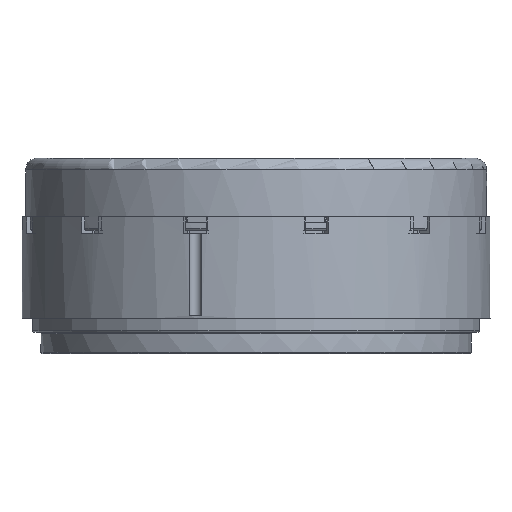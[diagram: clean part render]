
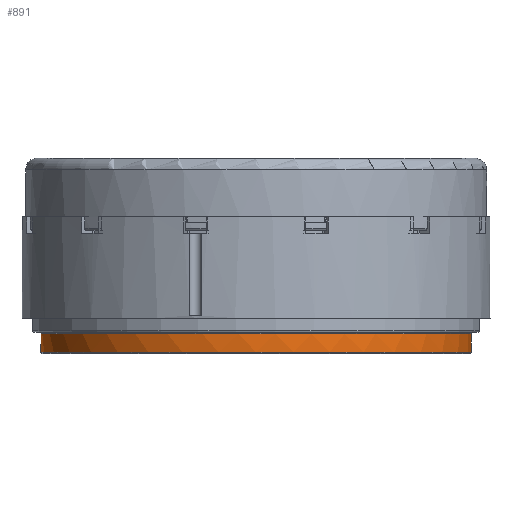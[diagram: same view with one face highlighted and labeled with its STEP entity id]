
A CAD part, front view. The second image highlights one B-rep face of the part: STEP entity #891.
In plain terms, the highlighted cylindrical face has radius 27.5 mm (diameter 55 mm), a full revolution.
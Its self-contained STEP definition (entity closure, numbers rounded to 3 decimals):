
#140=FACE_BOUND('',#1964,.T.);
#141=FACE_BOUND('',#1965,.T.);
#891=ADVANCED_FACE('',(#140,#141),#1099,.T.);
#1099=CYLINDRICAL_SURFACE('',#9416,27.5);
#1964=EDGE_LOOP('',(#5722));
#1965=EDGE_LOOP('',(#5723));
#5722=ORIENTED_EDGE('',*,*,#8121,.T.);
#5723=ORIENTED_EDGE('',*,*,#8122,.T.);
#6929=VERTEX_POINT('',#15581);
#6930=VERTEX_POINT('',#15583);
#8121=EDGE_CURVE('',#6929,#6929,#8624,.T.);
#8122=EDGE_CURVE('',#6930,#6930,#8625,.T.);
#8624=CIRCLE('',#9414,27.5);
#8625=CIRCLE('',#9415,27.5);
#9414=AXIS2_PLACEMENT_3D('',#15580,#11677,#11678);
#9415=AXIS2_PLACEMENT_3D('',#15582,#11679,#11680);
#9416=AXIS2_PLACEMENT_3D('',#15584,#11681,#11682);
#11677=DIRECTION('',(0.,0.,1.));
#11678=DIRECTION('',(1.,0.,0.));
#11679=DIRECTION('',(0.,0.,-1.));
#11680=DIRECTION('',(0.259,-0.966,0.));
#11681=DIRECTION('',(0.,0.,1.));
#11682=DIRECTION('',(-0.259,0.966,0.));
#15580=CARTESIAN_POINT('',(0.,0.,-10.825));
#15581=CARTESIAN_POINT('',(27.5,0.,-10.825));
#15582=CARTESIAN_POINT('',(0.,0.,-8.475));
#15583=CARTESIAN_POINT('',(7.118,-26.563,-8.475));
#15584=CARTESIAN_POINT('',(0.,0.,-11.575));
